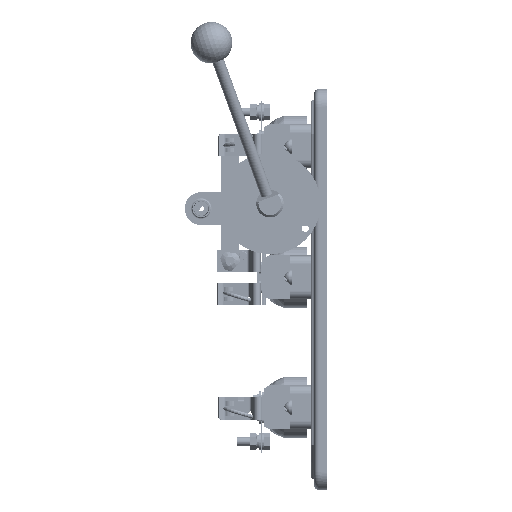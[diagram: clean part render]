
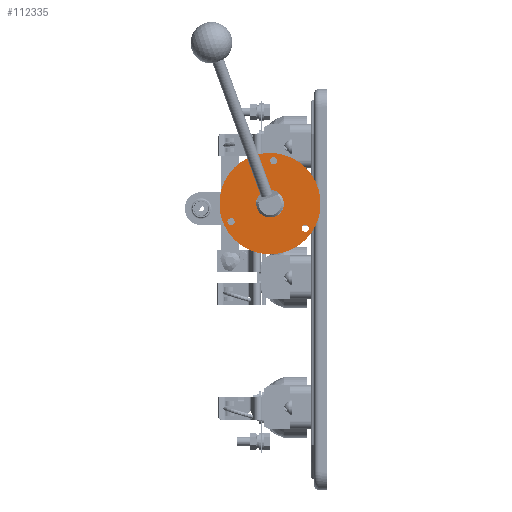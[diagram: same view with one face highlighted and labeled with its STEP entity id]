
A CAD part, left-side view. The second image highlights one B-rep face of the part: STEP entity #112335.
In plain terms, the highlighted planar face has unit normal (-1, 0, 0).
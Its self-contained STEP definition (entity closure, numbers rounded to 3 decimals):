
#3321 = EDGE_CURVE ( 'NONE', #66770, #64433, #61380, .T. ) ;
#3397 = ORIENTED_EDGE ( 'NONE', *, *, #71051, .F. ) ;
#3672 = ORIENTED_EDGE ( 'NONE', *, *, #71064, .T. ) ;
#7646 = DIRECTION ( 'NONE',  ( 0., 0.996, 0.087 ) ) ;
#7647 = DIRECTION ( 'NONE',  ( 1., 0., 0. ) ) ;
#7648 = CARTESIAN_POINT ( 'NONE',  ( -199.8, 86.146, 61.518 ) ) ;
#7654 = AXIS2_PLACEMENT_3D ( 'NONE', #7648, #7647, #7646 ) ;
#7666 = CIRCLE ( 'NONE', #7654, 3.25 ) ;
#15368 = CARTESIAN_POINT ( 'NONE',  ( -199.8, 50.8, 78. ) ) ;
#15385 = DIRECTION ( 'NONE',  ( 0., 0.996, 0.087 ) ) ;
#15387 = DIRECTION ( 'NONE',  ( 1., 0., 0. ) ) ;
#15394 = CARTESIAN_POINT ( 'NONE',  ( -199.8, 50.8, 78. ) ) ;
#15395 = AXIS2_PLACEMENT_3D ( 'NONE', #15394, #15387, #15385 ) ;
#15396 = CIRCLE ( 'NONE', #15395, 12.6 ) ;
#15458 = DIRECTION ( 'NONE',  ( 1., 0., 0. ) ) ;
#15473 = CIRCLE ( 'NONE', #15476, 12.6 ) ;
#15474 = DIRECTION ( 'NONE',  ( 0., 0.996, 0.087 ) ) ;
#15476 = AXIS2_PLACEMENT_3D ( 'NONE', #15368, #15458, #15474 ) ;
#15525 = DIRECTION ( 'NONE',  ( 0., 0.996, 0.087 ) ) ;
#15526 = DIRECTION ( 'NONE',  ( 1., 0., 0. ) ) ;
#15528 = CARTESIAN_POINT ( 'NONE',  ( -199.8, 18.853, 55.631 ) ) ;
#15529 = AXIS2_PLACEMENT_3D ( 'NONE', #15528, #15526, #15525 ) ;
#15531 = CIRCLE ( 'NONE', #15529, 3.25 ) ;
#15568 = CARTESIAN_POINT ( 'NONE',  ( -199.8, 63.352, 79.098 ) ) ;
#15617 = CARTESIAN_POINT ( 'NONE',  ( -199.8, 15.615, 55.347 ) ) ;
#15634 = CARTESIAN_POINT ( 'NONE',  ( -199.8, 22.091, 55.914 ) ) ;
#16210 = VERTEX_POINT ( 'NONE', #97260 ) ;
#17308 = AXIS2_PLACEMENT_3D ( 'NONE', #17408, #17406, #17405 ) ;
#17314 = CIRCLE ( 'NONE', #17308, 46. ) ;
#17405 = DIRECTION ( 'NONE',  ( 0., 0.996, 0.087 ) ) ;
#17406 = DIRECTION ( 'NONE',  ( 1., 0., 0. ) ) ;
#17408 = CARTESIAN_POINT ( 'NONE',  ( -199.8, 50.8, 78. ) ) ;
#17427 = CARTESIAN_POINT ( 'NONE',  ( -199.8, 4.975, 73.991 ) ) ;
#17513 = CARTESIAN_POINT ( 'NONE',  ( -199.8, 50.639, 117.135 ) ) ;
#31637 = CARTESIAN_POINT ( 'NONE',  ( -199.8, 89.384, 61.801 ) ) ;
#41575 = CARTESIAN_POINT ( 'NONE',  ( -199.8, 56.25, 66.64 ) ) ;
#42207 = VERTEX_POINT ( 'NONE', #31637 ) ;
#61368 = DIRECTION ( 'NONE',  ( 0., 0.5, 0.866 ) ) ;
#61369 = VECTOR ( 'NONE', #61368, 1000. ) ;
#61370 = CARTESIAN_POINT ( 'NONE',  ( -199.8, 63.363, 78.96 ) ) ;
#61380 = LINE ( 'NONE', #61370, #61369 ) ;
#62015 = CARTESIAN_POINT ( 'NONE',  ( -199.8, 38.248, 76.902 ) ) ;
#62083 = CARTESIAN_POINT ( 'NONE',  ( -199.8, 63.363, 78.96 ) ) ;
#64316 = VERTEX_POINT ( 'NONE', #62015 ) ;
#64433 = VERTEX_POINT ( 'NONE', #62083 ) ;
#66770 = VERTEX_POINT ( 'NONE', #41575 ) ;
#68633 = VERTEX_POINT ( 'NONE', #109830 ) ;
#71014 = EDGE_CURVE ( 'NONE', #64316, #66770, #117613, .T. ) ;
#71051 = EDGE_CURVE ( 'NONE', #95528, #68633, #117619, .T. ) ;
#71052 = EDGE_CURVE ( 'NONE', #95696, #104835, #117661, .T. ) ;
#71064 = EDGE_CURVE ( 'NONE', #42207, #16210, #117669, .T. ) ;
#72323 = EDGE_CURVE ( 'NONE', #16210, #42207, #7666, .T. ) ;
#72777 = EDGE_LOOP ( 'NONE', ( #112981, #3672 ) ) ;
#83078 = FACE_BOUND ( 'NONE', #112714, .T. ) ;
#83080 = PLANE ( 'NONE',  #83116 ) ;
#83082 = FACE_BOUND ( 'NONE', #72777, .T. ) ;
#83085 = FACE_BOUND ( 'NONE', #112631, .T. ) ;
#83100 = FACE_BOUND ( 'NONE', #112833, .T. ) ;
#83101 = FACE_OUTER_BOUND ( 'NONE', #112941, .T. ) ;
#83116 = AXIS2_PLACEMENT_3D ( 'NONE', #83273, #83271, #83269 ) ;
#83269 = DIRECTION ( 'NONE',  ( 0., 0.996, 0.087 ) ) ;
#83271 = DIRECTION ( 'NONE',  ( 1., 0., 0. ) ) ;
#83273 = CARTESIAN_POINT ( 'NONE',  ( -199.8, 50.8, 78. ) ) ;
#84093 = CARTESIAN_POINT ( 'NONE',  ( -199.8, 47.401, 116.852 ) ) ;
#84114 = CIRCLE ( 'NONE', #84279, 3.25 ) ;
#84275 = DIRECTION ( 'NONE',  ( 0., 0.996, 0.087 ) ) ;
#84277 = DIRECTION ( 'NONE',  ( 1., 0., 0. ) ) ;
#84279 = AXIS2_PLACEMENT_3D ( 'NONE', #84093, #84277, #84275 ) ;
#88471 = CARTESIAN_POINT ( 'NONE',  ( -199.8, 44.163, 116.568 ) ) ;
#91474 = EDGE_CURVE ( 'NONE', #64433, #92155, #15396, .T. ) ;
#91752 = DIRECTION ( 'NONE',  ( 0., 0.996, 0.087 ) ) ;
#91753 = DIRECTION ( 'NONE',  ( 1., 0., 0. ) ) ;
#91754 = AXIS2_PLACEMENT_3D ( 'NONE', #91765, #91753, #91752 ) ;
#91755 = CIRCLE ( 'NONE', #91754, 3.25 ) ;
#91765 = CARTESIAN_POINT ( 'NONE',  ( -199.8, 18.853, 55.631 ) ) ;
#91883 = EDGE_CURVE ( 'NONE', #92155, #64316, #15473, .T. ) ;
#92028 = EDGE_CURVE ( 'NONE', #92510, #92386, #15531, .T. ) ;
#92155 = VERTEX_POINT ( 'NONE', #15568 ) ;
#92386 = VERTEX_POINT ( 'NONE', #15634 ) ;
#92510 = VERTEX_POINT ( 'NONE', #15617 ) ;
#95331 = EDGE_CURVE ( 'NONE', #68633, #95528, #17314, .T. ) ;
#95528 = VERTEX_POINT ( 'NONE', #17427 ) ;
#95696 = VERTEX_POINT ( 'NONE', #17513 ) ;
#97260 = CARTESIAN_POINT ( 'NONE',  ( -199.8, 82.908, 61.235 ) ) ;
#103122 = EDGE_CURVE ( 'NONE', #104835, #95696, #84114, .T. ) ;
#104835 = VERTEX_POINT ( 'NONE', #88471 ) ;
#107660 = EDGE_CURVE ( 'NONE', #92386, #92510, #91755, .T. ) ;
#109830 = CARTESIAN_POINT ( 'NONE',  ( -199.8, 96.625, 82.009 ) ) ;
#112267 = ORIENTED_EDGE ( 'NONE', *, *, #91883, .T. ) ;
#112305 = ORIENTED_EDGE ( 'NONE', *, *, #91474, .T. ) ;
#112335 = ADVANCED_FACE ( 'NONE', ( #83078, #83085, #83101, #83100, #83082 ), #83080, .F. ) ;
#112372 = ORIENTED_EDGE ( 'NONE', *, *, #107660, .T. ) ;
#112437 = ORIENTED_EDGE ( 'NONE', *, *, #71052, .T. ) ;
#112601 = ORIENTED_EDGE ( 'NONE', *, *, #71014, .T. ) ;
#112626 = ORIENTED_EDGE ( 'NONE', *, *, #92028, .T. ) ;
#112631 = EDGE_LOOP ( 'NONE', ( #112305, #112267, #112601, #112695 ) ) ;
#112695 = ORIENTED_EDGE ( 'NONE', *, *, #3321, .T. ) ;
#112714 = EDGE_LOOP ( 'NONE', ( #112626, #112372 ) ) ;
#112833 = EDGE_LOOP ( 'NONE', ( #112934, #112437 ) ) ;
#112934 = ORIENTED_EDGE ( 'NONE', *, *, #103122, .T. ) ;
#112941 = EDGE_LOOP ( 'NONE', ( #3397, #112978 ) ) ;
#112978 = ORIENTED_EDGE ( 'NONE', *, *, #95331, .F. ) ;
#112981 = ORIENTED_EDGE ( 'NONE', *, *, #72323, .T. ) ;
#117543 = CARTESIAN_POINT ( 'NONE',  ( -199.8, 50.8, 78. ) ) ;
#117609 = DIRECTION ( 'NONE',  ( 0., 0.996, 0.087 ) ) ;
#117611 = DIRECTION ( 'NONE',  ( 1., 0., 0. ) ) ;
#117612 = AXIS2_PLACEMENT_3D ( 'NONE', #117543, #117611, #117609 ) ;
#117613 = CIRCLE ( 'NONE', #117612, 12.6 ) ;
#117618 = CARTESIAN_POINT ( 'NONE',  ( -199.8, 50.8, 78. ) ) ;
#117619 = CIRCLE ( 'NONE', #117625, 46. ) ;
#117625 = AXIS2_PLACEMENT_3D ( 'NONE', #117618, #117686, #117685 ) ;
#117661 = CIRCLE ( 'NONE', #117684, 3.25 ) ;
#117669 = CIRCLE ( 'NONE', #117714, 3.25 ) ;
#117679 = DIRECTION ( 'NONE',  ( 0., 0.996, 0.087 ) ) ;
#117680 = DIRECTION ( 'NONE',  ( 1., 0., 0. ) ) ;
#117681 = DIRECTION ( 'NONE',  ( 1., 0., 0. ) ) ;
#117684 = AXIS2_PLACEMENT_3D ( 'NONE', #117694, #117680, #117679 ) ;
#117685 = DIRECTION ( 'NONE',  ( 0., 0.996, 0.087 ) ) ;
#117686 = DIRECTION ( 'NONE',  ( 1., 0., 0. ) ) ;
#117694 = CARTESIAN_POINT ( 'NONE',  ( -199.8, 47.401, 116.852 ) ) ;
#117714 = AXIS2_PLACEMENT_3D ( 'NONE', #117721, #117681, #117726 ) ;
#117721 = CARTESIAN_POINT ( 'NONE',  ( -199.8, 86.146, 61.518 ) ) ;
#117726 = DIRECTION ( 'NONE',  ( 0., 0.996, 0.087 ) ) ;
